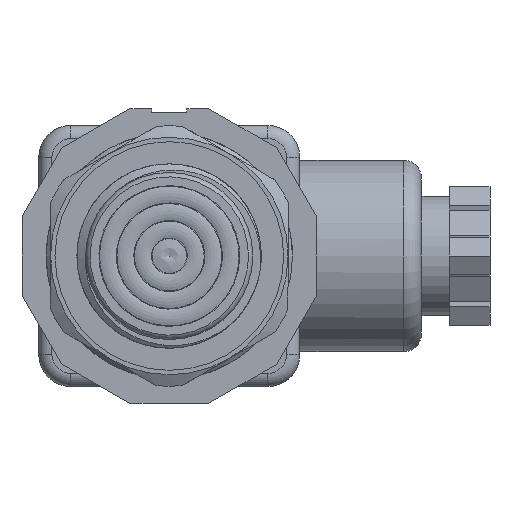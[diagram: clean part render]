
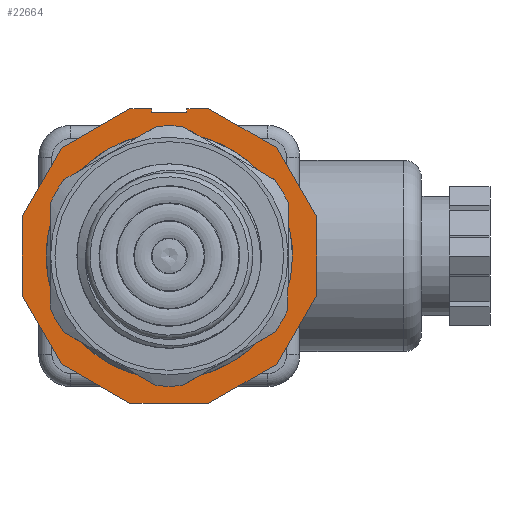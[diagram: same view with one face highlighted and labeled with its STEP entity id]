
A CAD part, left-side view. The second image highlights one B-rep face of the part: STEP entity #22664.
In plain terms, the highlighted planar face has unit normal (-1, 0, 0).
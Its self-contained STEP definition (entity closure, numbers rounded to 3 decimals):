
#760=FACE_BOUND('',#3607,.T.);
#1427=CIRCLE('',#24518,14.);
#1428=CIRCLE('',#24519,14.);
#2390=FACE_OUTER_BOUND('',#3606,.T.);
#3606=EDGE_LOOP('',(#18487,#18488,#18489,#18490,#18491,#18492,#18493,#18494,
#18495,#18496,#18497,#18498,#18499,#18500,#18501,#18502));
#3607=EDGE_LOOP('',(#18503,#18504));
#5600=LINE('',#45602,#7793);
#5601=LINE('',#45604,#7794);
#5602=LINE('',#45606,#7795);
#5603=LINE('',#45608,#7796);
#5604=LINE('',#45610,#7797);
#5605=LINE('',#45612,#7798);
#5606=LINE('',#45614,#7799);
#5607=LINE('',#45616,#7800);
#5608=LINE('',#45618,#7801);
#5609=LINE('',#45620,#7802);
#5610=LINE('',#45622,#7803);
#5611=LINE('',#45624,#7804);
#5612=LINE('',#45626,#7805);
#5613=LINE('',#45628,#7806);
#5614=LINE('',#45630,#7807);
#5615=LINE('',#45631,#7808);
#7793=VECTOR('',#29643,1.);
#7794=VECTOR('',#29644,1.);
#7795=VECTOR('',#29645,1.);
#7796=VECTOR('',#29646,1.);
#7797=VECTOR('',#29647,1.);
#7798=VECTOR('',#29648,1.);
#7799=VECTOR('',#29649,1.);
#7800=VECTOR('',#29650,1.);
#7801=VECTOR('',#29651,1.);
#7802=VECTOR('',#29652,1.);
#7803=VECTOR('',#29653,1.);
#7804=VECTOR('',#29654,1.);
#7805=VECTOR('',#29655,1.);
#7806=VECTOR('',#29656,1.);
#7807=VECTOR('',#29657,1.);
#7808=VECTOR('',#29658,1.);
#9914=VERTEX_POINT('',#45594);
#9915=VERTEX_POINT('',#45596);
#9916=VERTEX_POINT('',#45600);
#9917=VERTEX_POINT('',#45601);
#9918=VERTEX_POINT('',#45603);
#9919=VERTEX_POINT('',#45605);
#9920=VERTEX_POINT('',#45607);
#9921=VERTEX_POINT('',#45609);
#9922=VERTEX_POINT('',#45611);
#9923=VERTEX_POINT('',#45613);
#9924=VERTEX_POINT('',#45615);
#9925=VERTEX_POINT('',#45617);
#9926=VERTEX_POINT('',#45619);
#9927=VERTEX_POINT('',#45621);
#9928=VERTEX_POINT('',#45623);
#9929=VERTEX_POINT('',#45625);
#9930=VERTEX_POINT('',#45627);
#9931=VERTEX_POINT('',#45629);
#12848=EDGE_CURVE('',#9914,#9915,#1427,.T.);
#12849=EDGE_CURVE('',#9915,#9914,#1428,.T.);
#12850=EDGE_CURVE('',#9916,#9917,#5600,.T.);
#12851=EDGE_CURVE('',#9917,#9918,#5601,.T.);
#12852=EDGE_CURVE('',#9918,#9919,#5602,.T.);
#12853=EDGE_CURVE('',#9919,#9920,#5603,.T.);
#12854=EDGE_CURVE('',#9920,#9921,#5604,.T.);
#12855=EDGE_CURVE('',#9921,#9922,#5605,.T.);
#12856=EDGE_CURVE('',#9922,#9923,#5606,.T.);
#12857=EDGE_CURVE('',#9923,#9924,#5607,.T.);
#12858=EDGE_CURVE('',#9924,#9925,#5608,.T.);
#12859=EDGE_CURVE('',#9925,#9926,#5609,.T.);
#12860=EDGE_CURVE('',#9926,#9927,#5610,.T.);
#12861=EDGE_CURVE('',#9927,#9928,#5611,.T.);
#12862=EDGE_CURVE('',#9928,#9929,#5612,.T.);
#12863=EDGE_CURVE('',#9929,#9930,#5613,.T.);
#12864=EDGE_CURVE('',#9930,#9931,#5614,.T.);
#12865=EDGE_CURVE('',#9931,#9916,#5615,.T.);
#18487=ORIENTED_EDGE('',*,*,#12850,.T.);
#18488=ORIENTED_EDGE('',*,*,#12851,.T.);
#18489=ORIENTED_EDGE('',*,*,#12852,.T.);
#18490=ORIENTED_EDGE('',*,*,#12853,.T.);
#18491=ORIENTED_EDGE('',*,*,#12854,.T.);
#18492=ORIENTED_EDGE('',*,*,#12855,.T.);
#18493=ORIENTED_EDGE('',*,*,#12856,.T.);
#18494=ORIENTED_EDGE('',*,*,#12857,.T.);
#18495=ORIENTED_EDGE('',*,*,#12858,.T.);
#18496=ORIENTED_EDGE('',*,*,#12859,.T.);
#18497=ORIENTED_EDGE('',*,*,#12860,.T.);
#18498=ORIENTED_EDGE('',*,*,#12861,.T.);
#18499=ORIENTED_EDGE('',*,*,#12862,.T.);
#18500=ORIENTED_EDGE('',*,*,#12863,.T.);
#18501=ORIENTED_EDGE('',*,*,#12864,.T.);
#18502=ORIENTED_EDGE('',*,*,#12865,.T.);
#18503=ORIENTED_EDGE('',*,*,#12849,.F.);
#18504=ORIENTED_EDGE('',*,*,#12848,.F.);
#20555=PLANE('',#24520);
#22664=ADVANCED_FACE('',(#2390,#760),#20555,.T.);
#24518=AXIS2_PLACEMENT_3D('',#45597,#29637,#29638);
#24519=AXIS2_PLACEMENT_3D('',#45598,#29639,#29640);
#24520=AXIS2_PLACEMENT_3D('',#45599,#29641,#29642);
#29637=DIRECTION('center_axis',(-1.,0.,0.));
#29638=DIRECTION('ref_axis',(0.,0.,-1.));
#29639=DIRECTION('center_axis',(-1.,0.,0.));
#29640=DIRECTION('ref_axis',(0.,0.,-1.));
#29641=DIRECTION('center_axis',(-1.,0.,0.));
#29642=DIRECTION('ref_axis',(0.,0.,-1.));
#29643=DIRECTION('',(0.,1.,0.));
#29644=DIRECTION('',(0.,0.,1.));
#29645=DIRECTION('',(0.,1.,0.));
#29646=DIRECTION('',(0.,0.866,-0.5));
#29647=DIRECTION('',(0.,0.5,-0.866));
#29648=DIRECTION('',(0.,0.,-1.));
#29649=DIRECTION('',(0.,-0.5,-0.866));
#29650=DIRECTION('',(0.,-0.866,-0.5));
#29651=DIRECTION('',(0.,-1.,0.));
#29652=DIRECTION('',(0.,-0.866,0.5));
#29653=DIRECTION('',(0.,-0.5,0.866));
#29654=DIRECTION('',(0.,0.,1.));
#29655=DIRECTION('',(0.,0.5,0.866));
#29656=DIRECTION('',(0.,0.866,0.5));
#29657=DIRECTION('',(0.,1.,0.));
#29658=DIRECTION('',(0.,0.,-1.));
#45594=CARTESIAN_POINT('',(69.,22.3,-125.));
#45596=CARTESIAN_POINT('',(69.,36.3,-139.));
#45597=CARTESIAN_POINT('Origin',(69.,36.3,-125.));
#45598=CARTESIAN_POINT('Origin',(69.,36.3,-125.));
#45599=CARTESIAN_POINT('Origin',(69.,59.181,-131.131));
#45600=CARTESIAN_POINT('',(69.,34.3,-108.65));
#45601=CARTESIAN_POINT('',(69.,38.3,-108.65));
#45602=CARTESIAN_POINT('',(69.,34.3,-108.65));
#45603=CARTESIAN_POINT('',(69.,38.3,-108.25));
#45604=CARTESIAN_POINT('',(69.,38.3,-108.65));
#45605=CARTESIAN_POINT('',(69.,40.788,-108.25));
#45606=CARTESIAN_POINT('',(69.,38.3,-108.25));
#45607=CARTESIAN_POINT('',(69.,48.562,-112.738));
#45608=CARTESIAN_POINT('',(69.,40.788,-108.25));
#45609=CARTESIAN_POINT('',(69.,53.05,-120.512));
#45610=CARTESIAN_POINT('',(69.,48.562,-112.738));
#45611=CARTESIAN_POINT('',(69.,53.05,-129.488));
#45612=CARTESIAN_POINT('',(69.,53.05,-120.512));
#45613=CARTESIAN_POINT('',(69.,48.562,-137.262));
#45614=CARTESIAN_POINT('',(69.,53.05,-129.488));
#45615=CARTESIAN_POINT('',(69.,40.788,-141.75));
#45616=CARTESIAN_POINT('',(69.,48.562,-137.262));
#45617=CARTESIAN_POINT('',(69.,31.812,-141.75));
#45618=CARTESIAN_POINT('',(69.,40.788,-141.75));
#45619=CARTESIAN_POINT('',(69.,24.038,-137.262));
#45620=CARTESIAN_POINT('',(69.,31.812,-141.75));
#45621=CARTESIAN_POINT('',(69.,19.55,-129.488));
#45622=CARTESIAN_POINT('',(69.,24.038,-137.262));
#45623=CARTESIAN_POINT('',(69.,19.55,-120.512));
#45624=CARTESIAN_POINT('',(69.,19.55,-129.488));
#45625=CARTESIAN_POINT('',(69.,24.038,-112.738));
#45626=CARTESIAN_POINT('',(69.,19.55,-120.512));
#45627=CARTESIAN_POINT('',(69.,31.812,-108.25));
#45628=CARTESIAN_POINT('',(69.,24.038,-112.738));
#45629=CARTESIAN_POINT('',(69.,34.3,-108.25));
#45630=CARTESIAN_POINT('',(69.,31.812,-108.25));
#45631=CARTESIAN_POINT('',(69.,34.3,-108.25));
